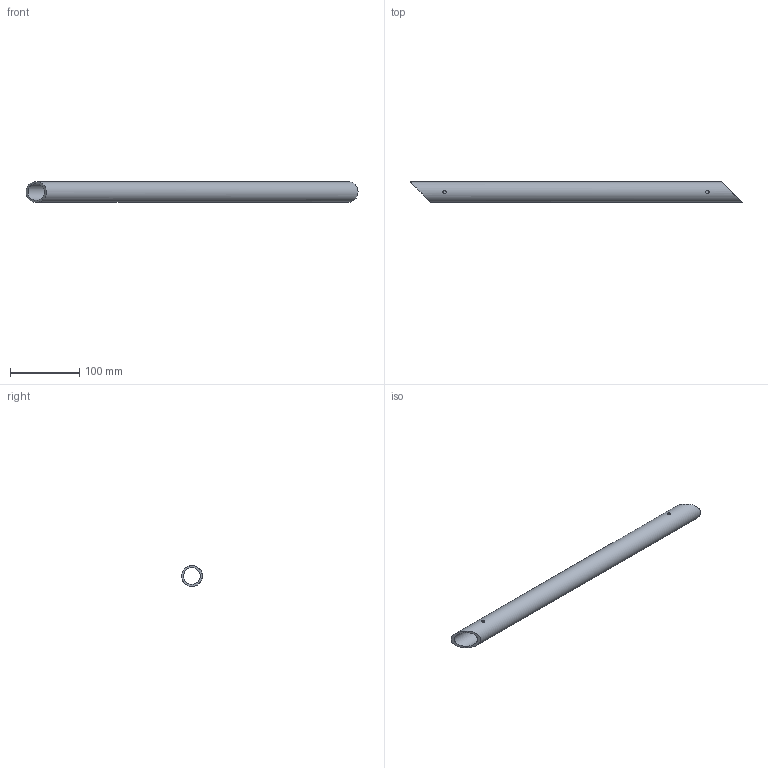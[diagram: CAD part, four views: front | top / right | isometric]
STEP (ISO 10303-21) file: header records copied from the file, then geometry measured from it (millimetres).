
FILE_DESCRIPTION(/* description */ (''),/* implementation_level */ '2;1');
FILE_NAME(/* name */ 'Pos115-Precisie buis 30x3-Aluminium-1st',/* time_stamp */ '2024-08-06T11:49:45+02:00',/* author */ (''),/* organization */ (''),/* preprocessor_version */ 'ST-DEVELOPER v16.5',/* originating_system */ 'HiCAD 2024 2901.2 Build 361',/* authorisation */ '');
FILE_SCHEMA (('AUTOMOTIVE_DESIGN { 1 0 10303 214 1 1 1 1 }'));
Length unit declared in the file: millimetre
Products named in the file (1): Pos115-Precisie buis 30x3-Aluminium-1st
Bounding box: 479.97 x 29.99 x 29.98 mm (x, y, z)
Volume: 114392.7 mm3; surface area: 77076.6 mm2
Topology: 1 solids, 1 shells, 6 faces, 14 edges, 10 vertices
Faces by surface type: cylinder 4, plane 2
Full cylindrical faces by diameter (mm): 5 x2, 24 x1, 30 x1
Entity records: 274 total; most frequent: CARTESIAN_POINT 58, DIRECTION 20, PRESENTATION_STYLE_ASSIGNMENT 17, COLOUR_RGB 17, DRAUGHTING_PRE_DEFINED_CURVE_FONT 16, CURVE_STYLE 16, OVER_RIDING_STYLED_ITEM 16, ORIENTED_EDGE 16
